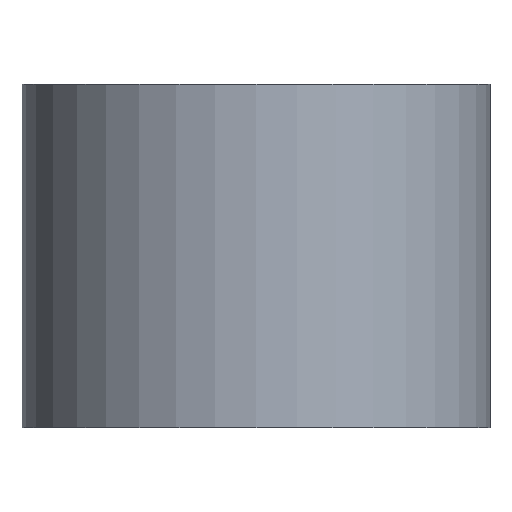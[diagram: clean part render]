
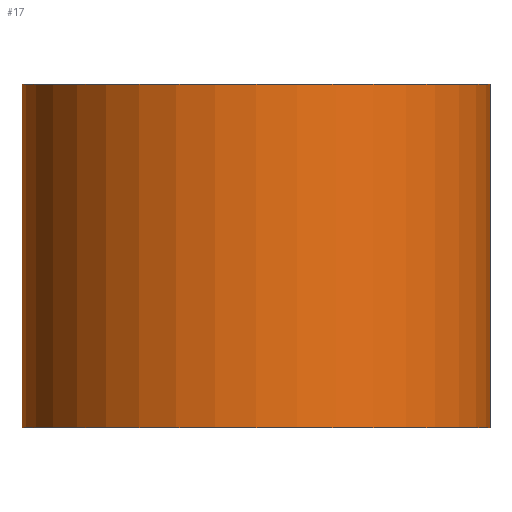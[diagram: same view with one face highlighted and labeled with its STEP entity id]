
A CAD part, front view. The second image highlights one B-rep face of the part: STEP entity #17.
In plain terms, the highlighted cylindrical face has radius 10 mm (diameter 20 mm), a full revolution.
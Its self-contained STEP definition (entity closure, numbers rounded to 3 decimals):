
#17 = ADVANCED_FACE('',(#18),#31,.T.);
#18 = FACE_BOUND('',#19,.T.);
#19 = EDGE_LOOP('',(#20,#54,#77,#104));
#20 = ORIENTED_EDGE('',*,*,#21,.F.);
#21 = EDGE_CURVE('',#22,#22,#24,.T.);
#22 = VERTEX_POINT('',#23);
#23 = CARTESIAN_POINT('',(10.,0.,14.7));
#24 = SURFACE_CURVE('',#25,(#30,#42),.PCURVE_S1.);
#25 = CIRCLE('',#26,10.);
#26 = AXIS2_PLACEMENT_3D('',#27,#28,#29);
#27 = CARTESIAN_POINT('',(0.,0.,14.7));
#28 = DIRECTION('',(0.,0.,1.));
#29 = DIRECTION('',(1.,0.,-0.));
#30 = PCURVE('',#31,#36);
#31 = CYLINDRICAL_SURFACE('',#32,10.);
#32 = AXIS2_PLACEMENT_3D('',#33,#34,#35);
#33 = CARTESIAN_POINT('',(0.,0.,0.));
#34 = DIRECTION('',(0.,0.,1.));
#35 = DIRECTION('',(1.,0.,-0.));
#36 = DEFINITIONAL_REPRESENTATION('',(#37),#41);
#37 = LINE('',#38,#39);
#38 = CARTESIAN_POINT('',(0.,14.7));
#39 = VECTOR('',#40,1.);
#40 = DIRECTION('',(1.,0.));
#41 = ( GEOMETRIC_REPRESENTATION_CONTEXT(2) 
PARAMETRIC_REPRESENTATION_CONTEXT() REPRESENTATION_CONTEXT('2D SPACE',''
  ) );
#42 = PCURVE('',#43,#48);
#43 = PLANE('',#44);
#44 = AXIS2_PLACEMENT_3D('',#45,#46,#47);
#45 = CARTESIAN_POINT('',(0.,0.,14.7));
#46 = DIRECTION('',(0.,0.,1.));
#47 = DIRECTION('',(1.,0.,-0.));
#48 = DEFINITIONAL_REPRESENTATION('',(#49),#53);
#49 = CIRCLE('',#50,10.);
#50 = AXIS2_PLACEMENT_2D('',#51,#52);
#51 = CARTESIAN_POINT('',(0.,0.));
#52 = DIRECTION('',(1.,0.));
#53 = ( GEOMETRIC_REPRESENTATION_CONTEXT(2) 
PARAMETRIC_REPRESENTATION_CONTEXT() REPRESENTATION_CONTEXT('2D SPACE',''
  ) );
#54 = ORIENTED_EDGE('',*,*,#55,.F.);
#55 = EDGE_CURVE('',#56,#22,#58,.T.);
#56 = VERTEX_POINT('',#57);
#57 = CARTESIAN_POINT('',(10.,0.,0.));
#58 = SEAM_CURVE('',#59,(#63,#70),.PCURVE_S1.);
#59 = LINE('',#60,#61);
#60 = CARTESIAN_POINT('',(10.,0.,0.));
#61 = VECTOR('',#62,1.);
#62 = DIRECTION('',(0.,0.,1.));
#63 = PCURVE('',#31,#64);
#64 = DEFINITIONAL_REPRESENTATION('',(#65),#69);
#65 = LINE('',#66,#67);
#66 = CARTESIAN_POINT('',(6.283,-0.));
#67 = VECTOR('',#68,1.);
#68 = DIRECTION('',(0.,1.));
#69 = ( GEOMETRIC_REPRESENTATION_CONTEXT(2) 
PARAMETRIC_REPRESENTATION_CONTEXT() REPRESENTATION_CONTEXT('2D SPACE',''
  ) );
#70 = PCURVE('',#31,#71);
#71 = DEFINITIONAL_REPRESENTATION('',(#72),#76);
#72 = LINE('',#73,#74);
#73 = CARTESIAN_POINT('',(0.,-0.));
#74 = VECTOR('',#75,1.);
#75 = DIRECTION('',(0.,1.));
#76 = ( GEOMETRIC_REPRESENTATION_CONTEXT(2) 
PARAMETRIC_REPRESENTATION_CONTEXT() REPRESENTATION_CONTEXT('2D SPACE',''
  ) );
#77 = ORIENTED_EDGE('',*,*,#78,.T.);
#78 = EDGE_CURVE('',#56,#56,#79,.T.);
#79 = SURFACE_CURVE('',#80,(#85,#92),.PCURVE_S1.);
#80 = CIRCLE('',#81,10.);
#81 = AXIS2_PLACEMENT_3D('',#82,#83,#84);
#82 = CARTESIAN_POINT('',(0.,0.,0.));
#83 = DIRECTION('',(0.,0.,1.));
#84 = DIRECTION('',(1.,0.,-0.));
#85 = PCURVE('',#31,#86);
#86 = DEFINITIONAL_REPRESENTATION('',(#87),#91);
#87 = LINE('',#88,#89);
#88 = CARTESIAN_POINT('',(0.,0.));
#89 = VECTOR('',#90,1.);
#90 = DIRECTION('',(1.,0.));
#91 = ( GEOMETRIC_REPRESENTATION_CONTEXT(2) 
PARAMETRIC_REPRESENTATION_CONTEXT() REPRESENTATION_CONTEXT('2D SPACE',''
  ) );
#92 = PCURVE('',#93,#98);
#93 = PLANE('',#94);
#94 = AXIS2_PLACEMENT_3D('',#95,#96,#97);
#95 = CARTESIAN_POINT('',(0.,0.,0.));
#96 = DIRECTION('',(0.,0.,1.));
#97 = DIRECTION('',(1.,0.,-0.));
#98 = DEFINITIONAL_REPRESENTATION('',(#99),#103);
#99 = CIRCLE('',#100,10.);
#100 = AXIS2_PLACEMENT_2D('',#101,#102);
#101 = CARTESIAN_POINT('',(0.,0.));
#102 = DIRECTION('',(1.,0.));
#103 = ( GEOMETRIC_REPRESENTATION_CONTEXT(2) 
PARAMETRIC_REPRESENTATION_CONTEXT() REPRESENTATION_CONTEXT('2D SPACE',''
  ) );
#104 = ORIENTED_EDGE('',*,*,#55,.T.);
